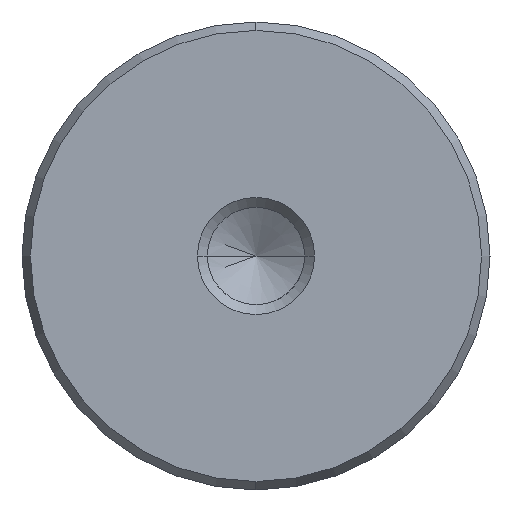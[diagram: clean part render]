
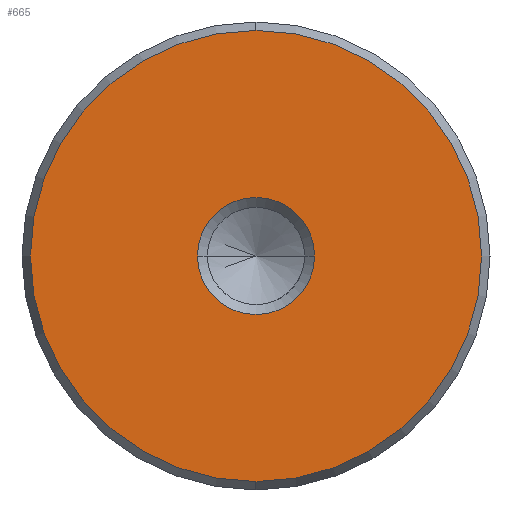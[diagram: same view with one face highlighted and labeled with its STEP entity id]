
A CAD part, left-side view. The second image highlights one B-rep face of the part: STEP entity #665.
In plain terms, the highlighted planar face has unit normal (-1, 0, 0).
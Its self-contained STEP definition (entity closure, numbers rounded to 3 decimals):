
#579=CARTESIAN_POINT('Vertex',(0.,0.,-15.423)) ;
#582=CARTESIAN_POINT('Axis2P3D Location',(0.,0.,0.)) ;
#586=CARTESIAN_POINT('Vertex',(0.,15.423,0.)) ;
#589=CARTESIAN_POINT('Axis2P3D Location',(0.,0.,0.)) ;
#593=CARTESIAN_POINT('Vertex',(0.,0.,15.423)) ;
#615=CARTESIAN_POINT('Axis2P3D Location',(0.,0.,0.)) ;
#619=CARTESIAN_POINT('Vertex',(0.,-15.423,0.)) ;
#622=CARTESIAN_POINT('Axis2P3D Location',(0.,0.,0.)) ;
#636=CARTESIAN_POINT('Axis2P3D Location',(0.,0.,0.)) ;
#647=CARTESIAN_POINT('Axis2P3D Location',(0.,0.,0.)) ;
#651=CARTESIAN_POINT('Vertex',(0.,4.,0.)) ;
#653=CARTESIAN_POINT('Vertex',(0.,-4.,0.)) ;
#656=CARTESIAN_POINT('Axis2P3D Location',(0.,0.,0.)) ;
#583=DIRECTION('Axis2P3D Direction',(1.,0.,-0.)) ;
#590=DIRECTION('Axis2P3D Direction',(1.,0.,-0.)) ;
#616=DIRECTION('Axis2P3D Direction',(1.,0.,-0.)) ;
#623=DIRECTION('Axis2P3D Direction',(1.,0.,-0.)) ;
#637=DIRECTION('Axis2P3D Direction',(1.,0.,-0.)) ;
#638=DIRECTION('Axis2P3D XDirection',(-0.,0.,-1.)) ;
#648=DIRECTION('Axis2P3D Direction',(1.,0.,-0.)) ;
#657=DIRECTION('Axis2P3D Direction',(1.,0.,-0.)) ;
#584=AXIS2_PLACEMENT_3D('Circle Axis2P3D',#582,#583,$) ;
#591=AXIS2_PLACEMENT_3D('Circle Axis2P3D',#589,#590,$) ;
#617=AXIS2_PLACEMENT_3D('Circle Axis2P3D',#615,#616,$) ;
#624=AXIS2_PLACEMENT_3D('Circle Axis2P3D',#622,#623,$) ;
#639=AXIS2_PLACEMENT_3D('Plane Axis2P3D',#636,#637,#638) ;
#649=AXIS2_PLACEMENT_3D('Circle Axis2P3D',#647,#648,$) ;
#658=AXIS2_PLACEMENT_3D('Circle Axis2P3D',#656,#657,$) ;
#642=ORIENTED_EDGE('',*,*,#588,.F.) ;
#643=ORIENTED_EDGE('',*,*,#626,.F.) ;
#644=ORIENTED_EDGE('',*,*,#621,.F.) ;
#645=ORIENTED_EDGE('',*,*,#595,.F.) ;
#662=ORIENTED_EDGE('',*,*,#655,.T.) ;
#663=ORIENTED_EDGE('',*,*,#660,.T.) ;
#664=FACE_BOUND('',#661,.T.) ;
#665=ADVANCED_FACE('720-32x125',(#646,#664),#640,.F.) ;
#585=CIRCLE('generated circle',#584,15.423) ;
#592=CIRCLE('generated circle',#591,15.423) ;
#618=CIRCLE('generated circle',#617,15.423) ;
#625=CIRCLE('generated circle',#624,15.423) ;
#650=CIRCLE('generated circle',#649,4.) ;
#659=CIRCLE('generated circle',#658,4.) ;
#588=EDGE_CURVE('',#580,#587,#585,.T.) ;
#595=EDGE_CURVE('',#587,#594,#592,.T.) ;
#621=EDGE_CURVE('',#594,#620,#618,.T.) ;
#626=EDGE_CURVE('',#620,#580,#625,.T.) ;
#655=EDGE_CURVE('',#652,#654,#650,.T.) ;
#660=EDGE_CURVE('',#654,#652,#659,.T.) ;
#641=EDGE_LOOP('',(#642,#643,#644,#645)) ;
#661=EDGE_LOOP('',(#662,#663)) ;
#646=FACE_OUTER_BOUND('',#641,.T.) ;
#640=PLANE('Plane',#639) ;
#580=VERTEX_POINT('',#579) ;
#587=VERTEX_POINT('',#586) ;
#594=VERTEX_POINT('',#593) ;
#620=VERTEX_POINT('',#619) ;
#652=VERTEX_POINT('',#651) ;
#654=VERTEX_POINT('',#653) ;
